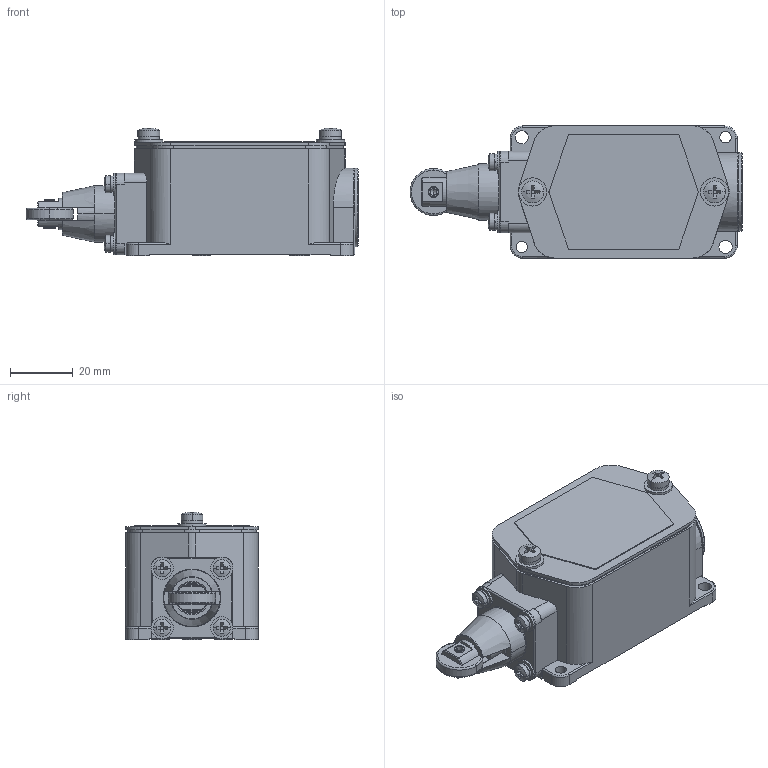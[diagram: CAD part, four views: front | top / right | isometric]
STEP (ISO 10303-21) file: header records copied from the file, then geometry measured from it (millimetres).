
FILE_DESCRIPTION((''),'2;1');
FILE_NAME('411','2022-03-01T',('qinxiong.ji'),(''),'PRO/ENGINEER BY PARAMETRIC TECHNOLOGY CORPORATION, 2015440','PRO/ENGINEER BY PARAMETRIC TECHNOLOGY CORPORATION, 2015440','');
FILE_SCHEMA(('CONFIG_CONTROL_DESIGN'));
Length unit declared in the file: millimetre
Products named in the file (1): 411
Bounding box: 105.9 x 42.2 x 40.82 mm (x, y, z)
Volume: 97950.5 mm3; surface area: 32670.3 mm2
Topology: 2 solids, 7 shells, 467 faces, 1135 edges, 711 vertices
Faces by surface type: plane 260, cylinder 138, torus 43, cone 14, sphere 12
Entity records: 14018 total; most frequent: CARTESIAN_POINT 2703, DIRECTION 2503, ORIENTED_EDGE 2266, EDGE_CURVE 1133, AXIS2_PLACEMENT_3D 954, VERTEX_POINT 711, VECTOR 595, LINE 595
